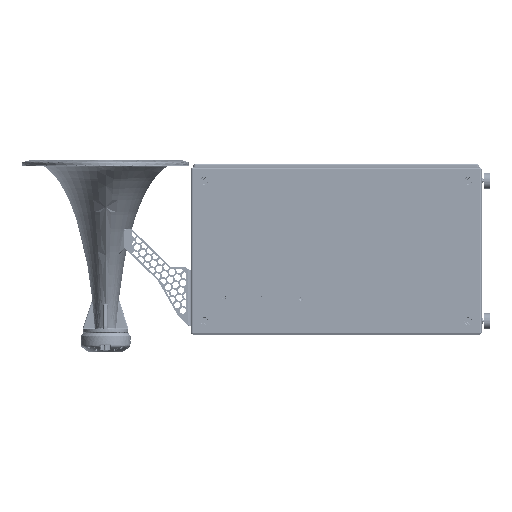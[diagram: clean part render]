
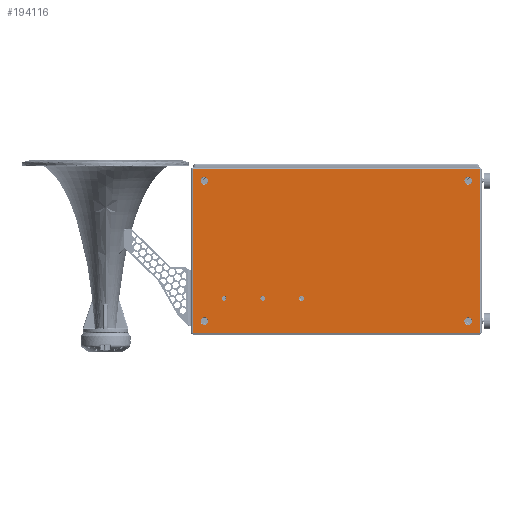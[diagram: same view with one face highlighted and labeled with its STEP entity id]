
A CAD part, left-side view. The second image highlights one B-rep face of the part: STEP entity #194116.
In plain terms, the highlighted planar face has unit normal (-1, 0, 0).
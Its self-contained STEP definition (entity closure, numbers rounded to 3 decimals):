
#11543=FACE_BOUND('',#60903,.T.);
#11544=FACE_BOUND('',#60904,.T.);
#11545=FACE_BOUND('',#60905,.T.);
#11546=FACE_BOUND('',#60906,.T.);
#11547=FACE_BOUND('',#60907,.T.);
#11548=FACE_BOUND('',#60908,.T.);
#11549=FACE_BOUND('',#60909,.T.);
#19498=LINE('',#604065,#32702);
#19500=LINE('',#604074,#32704);
#19506=LINE('',#604095,#32710);
#19518=LINE('',#604123,#32722);
#19533=LINE('',#604154,#32737);
#19535=LINE('',#604158,#32739);
#19606=LINE('',#604430,#32810);
#19607=LINE('',#604431,#32811);
#19608=LINE('',#604432,#32812);
#19609=LINE('',#604434,#32813);
#19610=LINE('',#604436,#32814);
#19611=LINE('',#604437,#32815);
#32702=VECTOR('',#242332,10.);
#32704=VECTOR('',#242340,10.);
#32710=VECTOR('',#242360,10.);
#32722=VECTOR('',#242382,10.);
#32737=VECTOR('',#242405,10.);
#32739=VECTOR('',#242409,10.);
#32810=VECTOR('',#242698,10.);
#32811=VECTOR('',#242699,10.);
#32812=VECTOR('',#242700,10.);
#32813=VECTOR('',#242701,10.);
#32814=VECTOR('',#242702,10.);
#32815=VECTOR('',#242703,10.);
#48911=FACE_OUTER_BOUND('',#60902,.T.);
#60902=EDGE_LOOP('',(#156226,#156227,#156228,#156229,#156230,#156231,#156232,
#156233,#156234,#156235,#156236,#156237));
#60903=EDGE_LOOP('',(#156238));
#60904=EDGE_LOOP('',(#156239));
#60905=EDGE_LOOP('',(#156240));
#60906=EDGE_LOOP('',(#156241));
#60907=EDGE_LOOP('',(#156242));
#60908=EDGE_LOOP('',(#156243));
#60909=EDGE_LOOP('',(#156244));
#72969=CIRCLE('',#209608,7.25);
#72975=CIRCLE('',#209616,7.25);
#72981=CIRCLE('',#209624,7.25);
#73016=CIRCLE('',#209685,11.5);
#73018=CIRCLE('',#209689,11.5);
#73020=CIRCLE('',#209693,11.5);
#73022=CIRCLE('',#209697,11.5);
#86015=VERTEX_POINT('',#604062);
#86016=VERTEX_POINT('',#604064);
#86019=VERTEX_POINT('',#604071);
#86020=VERTEX_POINT('',#604073);
#86027=VERTEX_POINT('',#604092);
#86028=VERTEX_POINT('',#604094);
#86038=VERTEX_POINT('',#604120);
#86039=VERTEX_POINT('',#604122);
#86052=VERTEX_POINT('',#604157);
#86071=VERTEX_POINT('',#604210);
#86077=VERTEX_POINT('',#604226);
#86083=VERTEX_POINT('',#604242);
#86138=VERTEX_POINT('',#604405);
#86140=VERTEX_POINT('',#604413);
#86142=VERTEX_POINT('',#604421);
#86144=VERTEX_POINT('',#604429);
#86145=VERTEX_POINT('',#604433);
#86146=VERTEX_POINT('',#604435);
#86147=VERTEX_POINT('',#604438);
#110883=EDGE_CURVE('',#86015,#86016,#19498,.T.);
#110887=EDGE_CURVE('',#86019,#86020,#19500,.T.);
#110897=EDGE_CURVE('',#86027,#86028,#19506,.T.);
#110910=EDGE_CURVE('',#86038,#86039,#19518,.F.);
#110925=EDGE_CURVE('',#86039,#86027,#19533,.F.);
#110927=EDGE_CURVE('',#86052,#86028,#19535,.T.);
#110954=EDGE_CURVE('',#86071,#86071,#72969,.T.);
#110962=EDGE_CURVE('',#86077,#86077,#72975,.T.);
#110970=EDGE_CURVE('',#86083,#86083,#72981,.T.);
#111052=EDGE_CURVE('',#86138,#86138,#73016,.T.);
#111056=EDGE_CURVE('',#86140,#86140,#73018,.T.);
#111060=EDGE_CURVE('',#86142,#86142,#73020,.T.);
#111063=EDGE_CURVE('',#86144,#86038,#19606,.T.);
#111064=EDGE_CURVE('',#86016,#86144,#19607,.T.);
#111065=EDGE_CURVE('',#86020,#86015,#19608,.T.);
#111066=EDGE_CURVE('',#86145,#86019,#19609,.T.);
#111067=EDGE_CURVE('',#86145,#86146,#19610,.F.);
#111068=EDGE_CURVE('',#86052,#86146,#19611,.F.);
#111069=EDGE_CURVE('',#86147,#86147,#73022,.T.);
#156226=ORIENTED_EDGE('',*,*,#110897,.F.);
#156227=ORIENTED_EDGE('',*,*,#110925,.F.);
#156228=ORIENTED_EDGE('',*,*,#110910,.F.);
#156229=ORIENTED_EDGE('',*,*,#111063,.F.);
#156230=ORIENTED_EDGE('',*,*,#111064,.F.);
#156231=ORIENTED_EDGE('',*,*,#110883,.F.);
#156232=ORIENTED_EDGE('',*,*,#111065,.F.);
#156233=ORIENTED_EDGE('',*,*,#110887,.F.);
#156234=ORIENTED_EDGE('',*,*,#111066,.F.);
#156235=ORIENTED_EDGE('',*,*,#111067,.T.);
#156236=ORIENTED_EDGE('',*,*,#111068,.F.);
#156237=ORIENTED_EDGE('',*,*,#110927,.T.);
#156238=ORIENTED_EDGE('',*,*,#111060,.F.);
#156239=ORIENTED_EDGE('',*,*,#111052,.F.);
#156240=ORIENTED_EDGE('',*,*,#110962,.F.);
#156241=ORIENTED_EDGE('',*,*,#110954,.F.);
#156242=ORIENTED_EDGE('',*,*,#110970,.F.);
#156243=ORIENTED_EDGE('',*,*,#111056,.F.);
#156244=ORIENTED_EDGE('',*,*,#111069,.F.);
#183469=PLANE('',#209696);
#194116=ADVANCED_FACE('',(#48911,#11543,#11544,#11545,#11546,#11547,#11548,
#11549),#183469,.F.);
#209608=AXIS2_PLACEMENT_3D('',#604212,#242464,#242465);
#209616=AXIS2_PLACEMENT_3D('',#604228,#242482,#242483);
#209624=AXIS2_PLACEMENT_3D('',#604244,#242500,#242501);
#209685=AXIS2_PLACEMENT_3D('',#604407,#242669,#242670);
#209689=AXIS2_PLACEMENT_3D('',#604415,#242679,#242680);
#209693=AXIS2_PLACEMENT_3D('',#604423,#242689,#242690);
#209696=AXIS2_PLACEMENT_3D('',#604428,#242696,#242697);
#209697=AXIS2_PLACEMENT_3D('',#604439,#242704,#242705);
#242332=DIRECTION('',(0.,0.,-1.));
#242340=DIRECTION('',(0.,0.,1.));
#242360=DIRECTION('',(0.,1.,0.));
#242382=DIRECTION('',(0.,-1.,0.));
#242405=DIRECTION('',(0.,0.,1.));
#242409=DIRECTION('',(0.,0.,-1.));
#242464=DIRECTION('center_axis',(-1.,0.,0.));
#242465=DIRECTION('ref_axis',(0.,-1.,0.));
#242482=DIRECTION('center_axis',(-1.,0.,0.));
#242483=DIRECTION('ref_axis',(0.,-1.,0.));
#242500=DIRECTION('center_axis',(-1.,0.,0.));
#242501=DIRECTION('ref_axis',(0.,-1.,0.));
#242669=DIRECTION('center_axis',(-1.,0.,0.));
#242670=DIRECTION('ref_axis',(0.,-1.,0.));
#242679=DIRECTION('center_axis',(-1.,0.,0.));
#242680=DIRECTION('ref_axis',(0.,-1.,0.));
#242689=DIRECTION('center_axis',(-1.,0.,0.));
#242690=DIRECTION('ref_axis',(0.,-1.,0.));
#242696=DIRECTION('center_axis',(1.,0.,0.));
#242697=DIRECTION('ref_axis',(0.,0.,
-1.));
#242698=DIRECTION('',(0.,0.,1.));
#242699=DIRECTION('',(0.,1.,0.));
#242700=DIRECTION('',(0.,-1.,0.));
#242701=DIRECTION('',(0.,1.,0.));
#242702=DIRECTION('',(0.,0.,-1.));
#242703=DIRECTION('',(0.,-1.,0.));
#242704=DIRECTION('center_axis',(-1.,0.,0.));
#242705=DIRECTION('ref_axis',(0.,-1.,0.));
#604062=CARTESIAN_POINT('',(-166.889,-6.653,-73.185));
#604064=CARTESIAN_POINT('',(-166.889,-6.653,-561.185));
#604065=CARTESIAN_POINT('',(-166.889,-6.653,-198.685));
#604071=CARTESIAN_POINT('',(-166.889,851.347,-561.185));
#604073=CARTESIAN_POINT('',(-166.889,851.347,-73.185));
#604074=CARTESIAN_POINT('',(-166.889,851.347,-435.685));
#604092=CARTESIAN_POINT('',(-166.889,256.597,-561.185));
#604094=CARTESIAN_POINT('',(-166.889,675.097,-561.185));
#604095=CARTESIAN_POINT('',(-166.889,444.097,-561.185));
#604120=CARTESIAN_POINT('',(-166.889,256.347,-553.185));
#604122=CARTESIAN_POINT('',(-166.889,256.597,-553.185));
#604123=CARTESIAN_POINT('',(-166.889,204.847,-553.185));
#604154=CARTESIAN_POINT('',(-166.889,256.597,-435.685));
#604157=CARTESIAN_POINT('',(-166.889,675.097,-553.185));
#604158=CARTESIAN_POINT('',(-166.889,675.097,-435.685));
#604210=CARTESIAN_POINT('',(-166.889,765.597,-459.185));
#604212=CARTESIAN_POINT('Origin',(-166.889,758.347,-459.185));
#604226=CARTESIAN_POINT('',(-166.889,533.597,-459.185));
#604228=CARTESIAN_POINT('Origin',(-166.889,526.347,-459.185));
#604242=CARTESIAN_POINT('',(-166.889,649.597,-459.185));
#604244=CARTESIAN_POINT('Origin',(-166.889,642.347,-459.185));
#604405=CARTESIAN_POINT('',(-166.889,38.847,-107.185));
#604407=CARTESIAN_POINT('Origin',(-166.889,27.347,-107.185));
#604413=CARTESIAN_POINT('',(-166.889,38.847,-527.185));
#604415=CARTESIAN_POINT('Origin',(-166.889,27.347,-527.185));
#604421=CARTESIAN_POINT('',(-166.889,828.847,-527.185));
#604423=CARTESIAN_POINT('Origin',(-166.889,817.347,-527.185));
#604428=CARTESIAN_POINT('Origin',(-166.889,422.347,-317.185));
#604429=CARTESIAN_POINT('',(-166.889,256.347,-561.185));
#604430=CARTESIAN_POINT('',(-166.889,256.347,-567.185));
#604431=CARTESIAN_POINT('',(-166.889,188.347,-561.185));
#604432=CARTESIAN_POINT('',(-166.889,204.847,-73.185));
#604433=CARTESIAN_POINT('',(-166.889,675.347,-561.185));
#604434=CARTESIAN_POINT('',(-166.889,812.097,-561.185));
#604435=CARTESIAN_POINT('',(-166.889,675.347,-553.185));
#604436=CARTESIAN_POINT('',(-166.889,675.347,-567.185));
#604437=CARTESIAN_POINT('',(-166.889,204.847,-553.185));
#604438=CARTESIAN_POINT('',(-166.889,828.847,-107.185));
#604439=CARTESIAN_POINT('Origin',(-166.889,817.347,-107.185));
